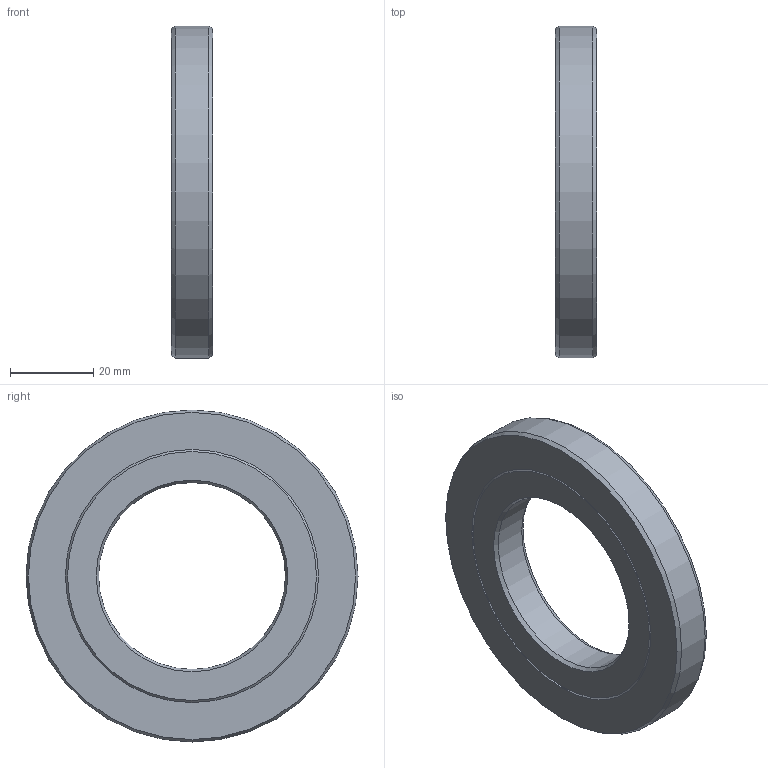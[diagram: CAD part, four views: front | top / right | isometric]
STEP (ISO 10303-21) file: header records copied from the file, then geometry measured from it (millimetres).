
FILE_DESCRIPTION(/* description */ (''),/* implementation_level */ '2;1');
FILE_NAME(/* name */ '301862 SA 45x80x10.stp',/* time_stamp */ '2016-12-16T15:18:01+01:00',/* author */ (''),/* organization */ (''),/* preprocessor_version */ 'ST-DEVELOPER v15',/* originating_system */ 'SIEMENS PLM Software NX 8.5',/* authorisation */ '');
FILE_SCHEMA (('CONFIG_CONTROL_DESIGN'));
Length unit declared in the file: millimetre
Products named in the file (1): ATE0000144_01
Bounding box: 10 x 80 x 80 mm (x, y, z)
Volume: 32962 mm3; surface area: 15779.4 mm2
Topology: 2 solids, 2 shells, 18 faces, 37 edges, 23 vertices
Faces by surface type: cone 10, plane 5, cylinder 3
Full cylindrical faces by diameter (mm): 45 x1, 80 x1
Entity records: 492 total; most frequent: DIRECTION 76, CARTESIAN_POINT 74, ORIENTED_EDGE 46, AXIS2_PLACEMENT_3D 38, EDGE_LOOP 33, FACE_BOUND 30, EDGE_CURVE 23, VERTEX_POINT 20
